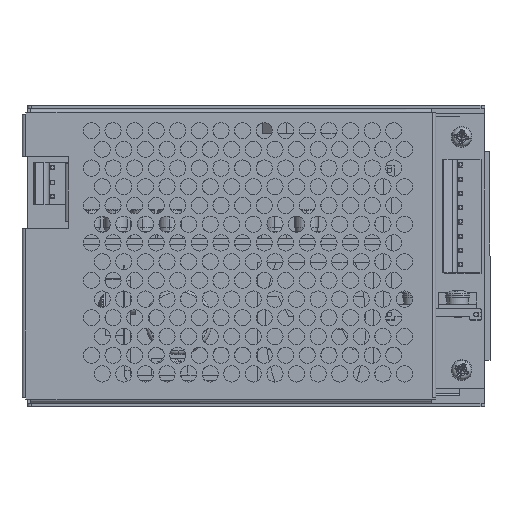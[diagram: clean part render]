
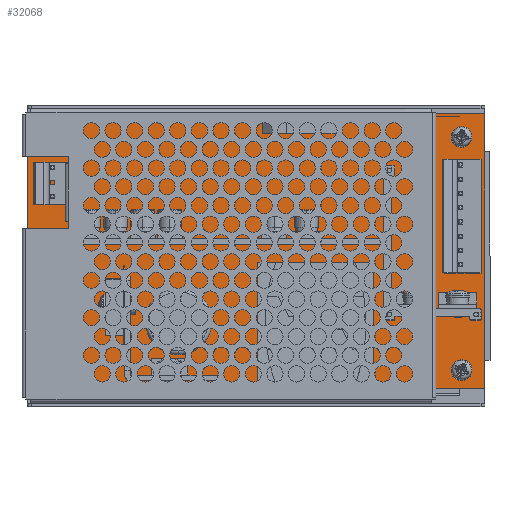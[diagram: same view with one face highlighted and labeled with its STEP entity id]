
A CAD part, top view. The second image highlights one B-rep face of the part: STEP entity #32068.
In plain terms, the highlighted planar face has unit normal (0, 0, 1) as drawn and (0, 1, 0) by its records, which use the part's own axes.
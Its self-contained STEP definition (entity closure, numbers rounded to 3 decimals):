
#16 = DIRECTION ( 'NONE',  ( 1., 0., 0. ) ) ;
#1224 = VECTOR ( 'NONE', #20636, 1000. ) ;
#1833 = CARTESIAN_POINT ( 'NONE',  ( -63.5, 1.6, -38.1 ) ) ;
#1864 = CARTESIAN_POINT ( 'NONE',  ( -21.5, 1.6, 19.6 ) ) ;
#2500 = CARTESIAN_POINT ( 'NONE',  ( 57.1, 1.6, 33.1 ) ) ;
#2990 = DIRECTION ( 'NONE',  ( 0., 0., 1. ) ) ;
#3160 = CARTESIAN_POINT ( 'NONE',  ( -58.5, 1.6, 31.1 ) ) ;
#3409 = ORIENTED_EDGE ( 'NONE', *, *, #4406, .T. ) ;
#3427 = EDGE_CURVE ( 'NONE', #8742, #60238, #58114, .T. ) ;
#3823 = ORIENTED_EDGE ( 'NONE', *, *, #7661, .T. ) ;
#3931 = FACE_BOUND ( 'NONE', #45497, .T. ) ;
#4110 = EDGE_CURVE ( 'NONE', #41617, #20653, #48207, .T. ) ;
#4406 = EDGE_CURVE ( 'NONE', #60238, #17928, #64502, .T. ) ;
#4685 = EDGE_CURVE ( 'NONE', #20653, #41617, #60377, .T. ) ;
#4785 = CARTESIAN_POINT ( 'NONE',  ( 57.1, 1.6, -29.7 ) ) ;
#4982 = CARTESIAN_POINT ( 'NONE',  ( -63.5, 1.6, 38.1 ) ) ;
#5068 = EDGE_LOOP ( 'NONE', ( #5999, #6193 ) ) ;
#5772 = CARTESIAN_POINT ( 'NONE',  ( -58.5, 1.6, -29.7 ) ) ;
#5982 = EDGE_LOOP ( 'NONE', ( #48144, #3409, #3823, #47963 ) ) ;
#5999 = ORIENTED_EDGE ( 'NONE', *, *, #14033, .F. ) ;
#6193 = ORIENTED_EDGE ( 'NONE', *, *, #19537, .F. ) ;
#7067 = DIRECTION ( 'NONE',  ( 0., 0., 1. ) ) ;
#7661 = EDGE_CURVE ( 'NONE', #17928, #57379, #46040, .T. ) ;
#7716 = DIRECTION ( 'NONE',  ( 0., 0., 1. ) ) ;
#8154 = ORIENTED_EDGE ( 'NONE', *, *, #4685, .F. ) ;
#8742 = VERTEX_POINT ( 'NONE', #22203 ) ;
#8867 = DIRECTION ( 'NONE',  ( 0., 1., 0. ) ) ;
#9554 = EDGE_CURVE ( 'NONE', #62055, #43453, #49888, .T. ) ;
#10227 = VERTEX_POINT ( 'NONE', #17783 ) ;
#10521 = EDGE_LOOP ( 'NONE', ( #44320, #57211 ) ) ;
#10649 = CARTESIAN_POINT ( 'NONE',  ( 63.5, 1.6, 38.1 ) ) ;
#11638 = EDGE_CURVE ( 'NONE', #34119, #29654, #61828, .T. ) ;
#12241 = DIRECTION ( 'NONE',  ( -1., 0., 0. ) ) ;
#12433 = EDGE_CURVE ( 'NONE', #50536, #10227, #65793, .T. ) ;
#13107 = DIRECTION ( 'NONE',  ( 0., 1., 0. ) ) ;
#13482 = DIRECTION ( 'NONE',  ( 0., -1., 0. ) ) ;
#13920 = DIRECTION ( 'NONE',  ( 0., 1., 0. ) ) ;
#14033 = EDGE_CURVE ( 'NONE', #50477, #29876, #36923, .T. ) ;
#15262 = CARTESIAN_POINT ( 'NONE',  ( -58.5, 1.6, -31.7 ) ) ;
#17717 = FACE_BOUND ( 'NONE', #66678, .T. ) ;
#17783 = CARTESIAN_POINT ( 'NONE',  ( -21.5, 1.6, 18.6 ) ) ;
#17928 = VERTEX_POINT ( 'NONE', #42557 ) ;
#18477 = PLANE ( 'NONE',  #33123 ) ;
#18664 = DIRECTION ( 'NONE',  ( 0., 1., 0. ) ) ;
#19537 = EDGE_CURVE ( 'NONE', #29876, #50477, #40422, .T. ) ;
#20475 = DIRECTION ( 'NONE',  ( 0., 0., 1. ) ) ;
#20636 = DIRECTION ( 'NONE',  ( 0., 0., 1. ) ) ;
#20653 = VERTEX_POINT ( 'NONE', #64428 ) ;
#20867 = CARTESIAN_POINT ( 'NONE',  ( -21.5, 1.6, 20.6 ) ) ;
#21156 = DIRECTION ( 'NONE',  ( 0., 1., 0. ) ) ;
#21408 = VECTOR ( 'NONE', #16, 1000. ) ;
#22203 = CARTESIAN_POINT ( 'NONE',  ( -63.5, 1.6, -38.1 ) ) ;
#25369 = CARTESIAN_POINT ( 'NONE',  ( -58.5, 1.6, 35.1 ) ) ;
#26994 = CARTESIAN_POINT ( 'NONE',  ( -58.5, 1.6, 33.1 ) ) ;
#28046 = ORIENTED_EDGE ( 'NONE', *, *, #60083, .F. ) ;
#28720 = CIRCLE ( 'NONE', #58959, 2. ) ;
#29130 = CARTESIAN_POINT ( 'NONE',  ( 0., 1.6, 0. ) ) ;
#29654 = VERTEX_POINT ( 'NONE', #58794 ) ;
#29684 = EDGE_CURVE ( 'NONE', #57379, #8742, #33616, .T. ) ;
#29876 = VERTEX_POINT ( 'NONE', #3160 ) ;
#30338 = AXIS2_PLACEMENT_3D ( 'NONE', #49761, #18664, #55014 ) ;
#30426 = ORIENTED_EDGE ( 'NONE', *, *, #4110, .F. ) ;
#31268 = AXIS2_PLACEMENT_3D ( 'NONE', #52271, #21156, #57517 ) ;
#31531 = FACE_BOUND ( 'NONE', #58907, .T. ) ;
#32068 = ADVANCED_FACE ( 'NONE', ( #31531, #46957, #3931, #17717, #57580, #43683 ), #18477, .F. ) ;
#32228 = DIRECTION ( 'NONE',  ( 0., 0., 1. ) ) ;
#33123 = AXIS2_PLACEMENT_3D ( 'NONE', #29130, #13482, #65524 ) ;
#33616 = LINE ( 'NONE', #1833, #44127 ) ;
#33882 = VECTOR ( 'NONE', #41677, 1000. ) ;
#34073 = DIRECTION ( 'NONE',  ( 0., 1., 0. ) ) ;
#34119 = VERTEX_POINT ( 'NONE', #5772 ) ;
#36923 = CIRCLE ( 'NONE', #54855, 2. ) ;
#37364 = AXIS2_PLACEMENT_3D ( 'NONE', #2500, #38756, #7716 ) ;
#37535 = CARTESIAN_POINT ( 'NONE',  ( 57.1, 1.6, 31.1 ) ) ;
#38116 = DIRECTION ( 'NONE',  ( 0., 1., 0. ) ) ;
#38680 = CIRCLE ( 'NONE', #44783, 1. ) ;
#38756 = DIRECTION ( 'NONE',  ( 0., 1., 0. ) ) ;
#39902 = CARTESIAN_POINT ( 'NONE',  ( -58.5, 1.6, -31.7 ) ) ;
#40422 = CIRCLE ( 'NONE', #30338, 2. ) ;
#40955 = CIRCLE ( 'NONE', #37364, 2. ) ;
#41497 = CARTESIAN_POINT ( 'NONE',  ( -63.5, 1.6, 38.1 ) ) ;
#41617 = VERTEX_POINT ( 'NONE', #4785 ) ;
#41677 = DIRECTION ( 'NONE',  ( 0., 0., -1. ) ) ;
#42557 = CARTESIAN_POINT ( 'NONE',  ( 63.5, 1.6, 38.1 ) ) ;
#43308 = ORIENTED_EDGE ( 'NONE', *, *, #11638, .F. ) ;
#43453 = VERTEX_POINT ( 'NONE', #37535 ) ;
#43683 = FACE_OUTER_BOUND ( 'NONE', #5982, .T. ) ;
#44127 = VECTOR ( 'NONE', #12241, 1000. ) ;
#44172 = CARTESIAN_POINT ( 'NONE',  ( 57.1, 1.6, -31.7 ) ) ;
#44320 = ORIENTED_EDGE ( 'NONE', *, *, #9554, .F. ) ;
#44783 = AXIS2_PLACEMENT_3D ( 'NONE', #1864, #38116, #7067 ) ;
#44979 = CARTESIAN_POINT ( 'NONE',  ( 57.1, 1.6, 33.1 ) ) ;
#45141 = DIRECTION ( 'NONE',  ( 0., 0., 1. ) ) ;
#45497 = EDGE_LOOP ( 'NONE', ( #30426, #8154 ) ) ;
#46040 = LINE ( 'NONE', #10649, #33882 ) ;
#46359 = EDGE_CURVE ( 'NONE', #10227, #50536, #38680, .T. ) ;
#46957 = FACE_BOUND ( 'NONE', #10521, .T. ) ;
#47963 = ORIENTED_EDGE ( 'NONE', *, *, #29684, .T. ) ;
#48144 = ORIENTED_EDGE ( 'NONE', *, *, #3427, .T. ) ;
#48207 = CIRCLE ( 'NONE', #61355, 2. ) ;
#49427 = DIRECTION ( 'NONE',  ( 0., 0., 1. ) ) ;
#49761 = CARTESIAN_POINT ( 'NONE',  ( -58.5, 1.6, 33.1 ) ) ;
#49888 = CIRCLE ( 'NONE', #55996, 2. ) ;
#50247 = DIRECTION ( 'NONE',  ( 0., 0., 1. ) ) ;
#50477 = VERTEX_POINT ( 'NONE', #25369 ) ;
#50536 = VERTEX_POINT ( 'NONE', #20867 ) ;
#51078 = CARTESIAN_POINT ( 'NONE',  ( -63.5, 1.6, 38.1 ) ) ;
#51487 = ORIENTED_EDGE ( 'NONE', *, *, #46359, .F. ) ;
#51578 = DIRECTION ( 'NONE',  ( 0., 1., 0. ) ) ;
#52271 = CARTESIAN_POINT ( 'NONE',  ( -21.5, 1.6, 19.6 ) ) ;
#54320 = EDGE_CURVE ( 'NONE', #43453, #62055, #40955, .T. ) ;
#54855 = AXIS2_PLACEMENT_3D ( 'NONE', #26994, #63410, #32228 ) ;
#55014 = DIRECTION ( 'NONE',  ( 0., 0., 1. ) ) ;
#55265 = AXIS2_PLACEMENT_3D ( 'NONE', #44172, #13107, #49427 ) ;
#55574 = CARTESIAN_POINT ( 'NONE',  ( 57.1, 1.6, 35.1 ) ) ;
#55996 = AXIS2_PLACEMENT_3D ( 'NONE', #44979, #13920, #50247 ) ;
#57211 = ORIENTED_EDGE ( 'NONE', *, *, #54320, .F. ) ;
#57379 = VERTEX_POINT ( 'NONE', #65004 ) ;
#57517 = DIRECTION ( 'NONE',  ( 0., 0., 1. ) ) ;
#57580 = FACE_BOUND ( 'NONE', #5068, .T. ) ;
#58114 = LINE ( 'NONE', #4982, #1224 ) ;
#58794 = CARTESIAN_POINT ( 'NONE',  ( -58.5, 1.6, -33.7 ) ) ;
#58907 = EDGE_LOOP ( 'NONE', ( #60252, #51487 ) ) ;
#58959 = AXIS2_PLACEMENT_3D ( 'NONE', #39902, #8867, #45141 ) ;
#59551 = AXIS2_PLACEMENT_3D ( 'NONE', #15262, #51578, #20475 ) ;
#60083 = EDGE_CURVE ( 'NONE', #29654, #34119, #28720, .T. ) ;
#60238 = VERTEX_POINT ( 'NONE', #51078 ) ;
#60252 = ORIENTED_EDGE ( 'NONE', *, *, #12433, .F. ) ;
#60377 = CIRCLE ( 'NONE', #55265, 2. ) ;
#61355 = AXIS2_PLACEMENT_3D ( 'NONE', #65233, #34073, #2990 ) ;
#61828 = CIRCLE ( 'NONE', #59551, 2. ) ;
#62055 = VERTEX_POINT ( 'NONE', #55574 ) ;
#63410 = DIRECTION ( 'NONE',  ( 0., 1., 0. ) ) ;
#64428 = CARTESIAN_POINT ( 'NONE',  ( 57.1, 1.6, -33.7 ) ) ;
#64502 = LINE ( 'NONE', #41497, #21408 ) ;
#65004 = CARTESIAN_POINT ( 'NONE',  ( 63.5, 1.6, -38.1 ) ) ;
#65233 = CARTESIAN_POINT ( 'NONE',  ( 57.1, 1.6, -31.7 ) ) ;
#65524 = DIRECTION ( 'NONE',  ( 0., 0., -1. ) ) ;
#65793 = CIRCLE ( 'NONE', #31268, 1. ) ;
#66678 = EDGE_LOOP ( 'NONE', ( #43308, #28046 ) ) ;
